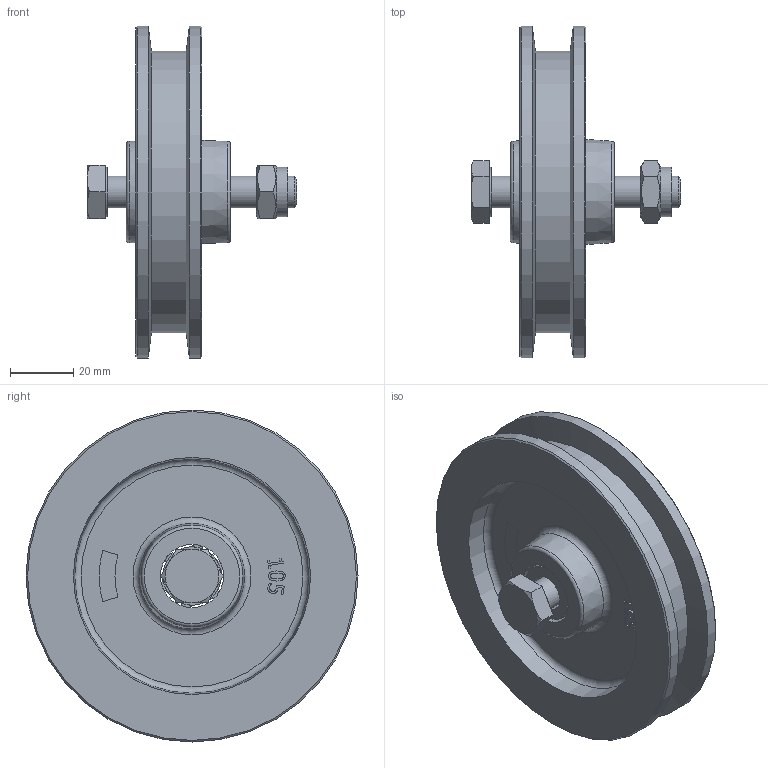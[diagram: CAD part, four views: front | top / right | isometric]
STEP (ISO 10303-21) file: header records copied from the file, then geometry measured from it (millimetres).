
FILE_DESCRIPTION(/* description */ ('Schiebetorrolle lose Ø105'),/* implementation_level */ '2;1');
FILE_NAME(/* name */ '010330447.iam.stp',/* time_stamp */ '2023-08-31T12:37:58+02:00',/* author */ ('O. Loukota'),/* organization */ (''),/* preprocessor_version */ 'ST-DEVELOPER v19.2',/* originating_system */ 'Autodesk Inventor 2023',/* authorisation */ '');
FILE_SCHEMA (('AUTOMOTIVE_DESIGN { 1 0 10303 214 3 1 1 }'));
Length unit declared in the file: millimetre
Products named in the file (8): 010330447; 337000104; DIN EN ISO 7040 - M10; DIN 931-1 - M10 x 60; 010330426_01; 337000303; 337000304; 337000305
Assembly tree (12 placements, depth 3):
  010330447
    337000104
    DIN EN ISO 7040 - M10
    DIN 931-1 - M10 x 60
    010330426_01
      337000303
      337000304
      337000305  x6
Bounding box: 66.4 x 105 x 105 mm (x, y, z)
Volume: 110363.4 mm3; surface area: 45147.1 mm2
Topology: 11 solids, 11 shells, 188 faces, 423 edges, 273 vertices
Faces by surface type: plane 81, cylinder 44, cone 31, bspline 26, torus 6
Full cylindrical faces by diameter (mm): 2 x12, 5 x6, 8.376 x1, 10 x1, 11.5 x2, 15.6 x2, 18.5 x2, 20 x1, 89 x1, 105 x2
Entity records: 5512 total; most frequent: CARTESIAN_POINT 1250, DIRECTION 821, ORIENTED_EDGE 816, EDGE_CURVE 408, AXIS2_PLACEMENT_3D 322, VERTEX_POINT 263, EDGE_LOOP 209, LINE 177
